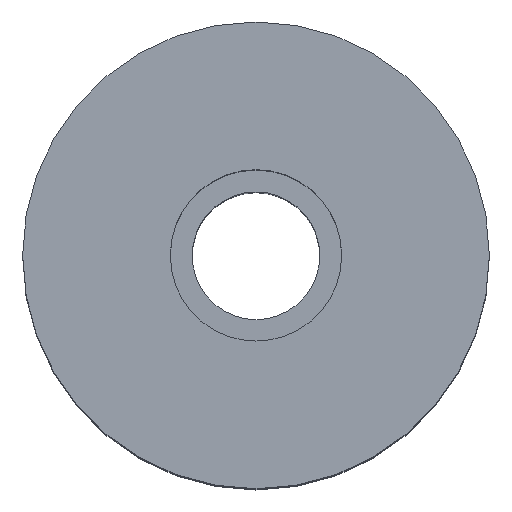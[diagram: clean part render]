
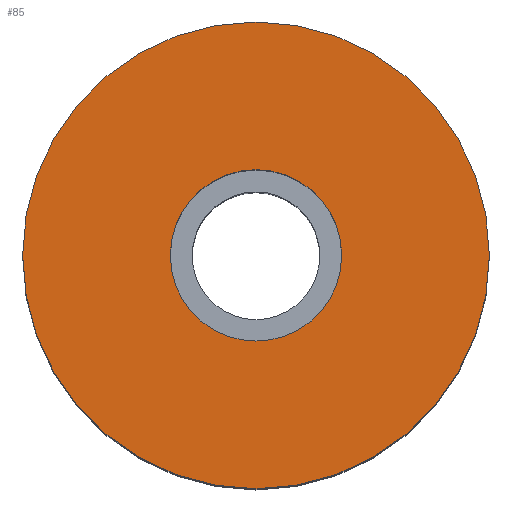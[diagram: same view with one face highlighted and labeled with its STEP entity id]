
A CAD part, top view. The second image highlights one B-rep face of the part: STEP entity #85.
In plain terms, the highlighted planar face has unit normal (0, 0, 1).
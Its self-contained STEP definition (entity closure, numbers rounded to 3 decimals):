
#85=ADVANCED_FACE('',(#132,#133),#134,.T.);
#132=FACE_BOUND('',#183,.T.);
#133=FACE_OUTER_BOUND('',#184,.T.);
#134=PLANE('',#185);
#183=EDGE_LOOP('',(#345,#346));
#184=EDGE_LOOP('',(#347,#348));
#185=AXIS2_PLACEMENT_3D('',#349,#350,#351);
#345=ORIENTED_EDGE('',*,*,#417,.F.);
#346=ORIENTED_EDGE('',*,*,#410,.F.);
#347=ORIENTED_EDGE('',*,*,#414,.T.);
#348=ORIENTED_EDGE('',*,*,#415,.T.);
#349=CARTESIAN_POINT('',(21.875,0.0,96.04));
#350=DIRECTION('',(-0.0,0.,1.0));
#351=DIRECTION('',(1.0,0.0,0.0));
#410=EDGE_CURVE('',#492,#488,#494,.T.);
#414=EDGE_CURVE('',#496,#500,#502,.T.);
#415=EDGE_CURVE('',#500,#496,#503,.T.);
#417=EDGE_CURVE('',#488,#492,#505,.T.);
#488=VERTEX_POINT('',#586);
#492=VERTEX_POINT('',#591);
#494=CIRCLE('',#594,11.75);
#496=VERTEX_POINT('',#596);
#500=VERTEX_POINT('',#601);
#502=CIRCLE('',#604,32.0);
#503=CIRCLE('',#605,32.0);
#505=CIRCLE('',#607,11.75);
#586=CARTESIAN_POINT('',(11.75,0.0,96.04));
#591=CARTESIAN_POINT('',(-11.75,0.,96.04));
#594=AXIS2_PLACEMENT_3D('',#717,#718,#719);
#596=CARTESIAN_POINT('',(32.0,0.0,96.04));
#601=CARTESIAN_POINT('',(-32.0,0.,96.04));
#604=AXIS2_PLACEMENT_3D('',#725,#726,#727);
#605=AXIS2_PLACEMENT_3D('',#728,#729,#730);
#607=AXIS2_PLACEMENT_3D('',#734,#735,#736);
#717=CARTESIAN_POINT('',(0.0,0.0,96.04));
#718=DIRECTION('',(-0.0,0.,1.0));
#719=DIRECTION('',(1.0,0.0,0.0));
#725=CARTESIAN_POINT('',(0.0,0.0,96.04));
#726=DIRECTION('',(-0.0,0.,1.0));
#727=DIRECTION('',(1.0,0.0,0.0));
#728=CARTESIAN_POINT('',(0.0,0.0,96.04));
#729=DIRECTION('',(-0.0,0.,1.0));
#730=DIRECTION('',(1.0,0.0,0.0));
#734=CARTESIAN_POINT('',(0.0,0.0,96.04));
#735=DIRECTION('',(-0.0,0.,1.0));
#736=DIRECTION('',(1.0,0.0,0.0));
